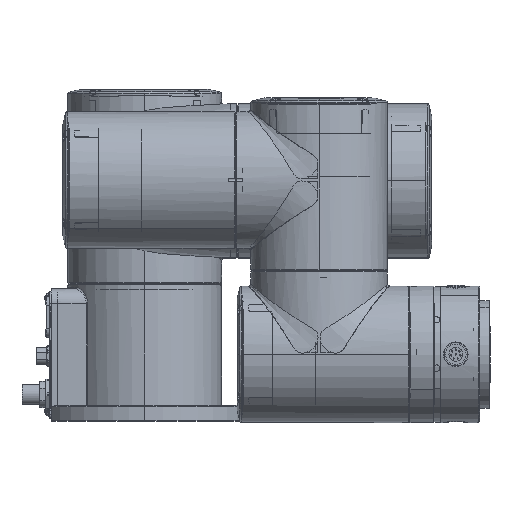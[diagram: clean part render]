
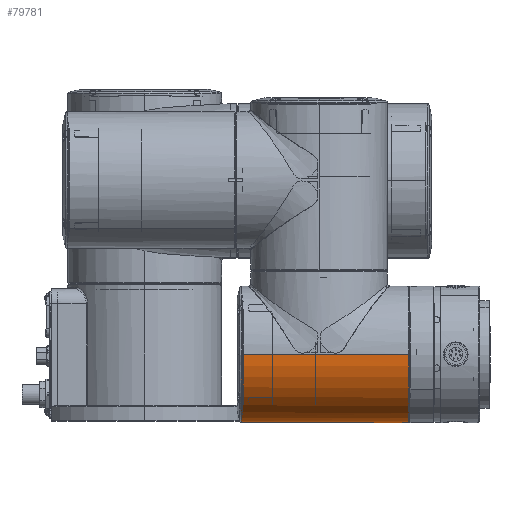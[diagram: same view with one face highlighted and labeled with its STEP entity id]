
A CAD part, top view. The second image highlights one B-rep face of the part: STEP entity #79781.
In plain terms, the highlighted cylindrical face has radius 40 mm (diameter 80 mm), a partial arc.
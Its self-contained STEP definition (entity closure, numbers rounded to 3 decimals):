
#944 = CARTESIAN_POINT ( 'NONE',  ( -40., 0., 0. ) ) ;
#2255 = DIRECTION ( 'NONE',  ( 0., 0., -1. ) ) ;
#5592 = CARTESIAN_POINT ( 'NONE',  ( 40., 0., 48. ) ) ;
#5737 = AXIS2_PLACEMENT_3D ( 'NONE', #11872, #38063, #109967 ) ;
#6031 = DIRECTION ( 'NONE',  ( 0., 0., -1. ) ) ;
#6538 = CARTESIAN_POINT ( 'NONE',  ( -1.005, 39.987, -49. ) ) ;
#7134 = CARTESIAN_POINT ( 'NONE',  ( -40., 0., 48. ) ) ;
#7421 = VERTEX_POINT ( 'NONE', #74821 ) ;
#9182 = EDGE_CURVE ( 'NONE', #7421, #13810, #111573, .T. ) ;
#11872 = CARTESIAN_POINT ( 'NONE',  ( 0., 0., 48. ) ) ;
#13559 = ORIENTED_EDGE ( 'NONE', *, *, #17013, .F. ) ;
#13810 = VERTEX_POINT ( 'NONE', #117627 ) ;
#14802 = LINE ( 'NONE', #117303, #138628 ) ;
#17013 = EDGE_CURVE ( 'NONE', #7421, #67553, #144394, .T. ) ;
#21884 = DIRECTION ( 'NONE',  ( 0., 0., 1. ) ) ;
#22810 = DIRECTION ( 'NONE',  ( -1., 0., 0. ) ) ;
#24855 = CIRCLE ( 'NONE', #80715, 40. ) ;
#25104 = VECTOR ( 'NONE', #136026, 1000. ) ;
#29659 = ORIENTED_EDGE ( 'NONE', *, *, #106592, .T. ) ;
#29801 = VERTEX_POINT ( 'NONE', #123202 ) ;
#30647 = CARTESIAN_POINT ( 'NONE',  ( 0., 0., 45.4 ) ) ;
#31057 = LINE ( 'NONE', #118983, #100597 ) ;
#34152 = ORIENTED_EDGE ( 'NONE', *, *, #51210, .T. ) ;
#34877 = EDGE_CURVE ( 'NONE', #150785, #138928, #121098, .T. ) ;
#34983 = ORIENTED_EDGE ( 'NONE', *, *, #146607, .T. ) ;
#38063 = DIRECTION ( 'NONE',  ( 0., 0., -1. ) ) ;
#42049 = ORIENTED_EDGE ( 'NONE', *, *, #34877, .T. ) ;
#45391 = DIRECTION ( 'NONE',  ( 0., 0., -1. ) ) ;
#50895 = CARTESIAN_POINT ( 'NONE',  ( -1.005, 39.987, -52.498 ) ) ;
#51210 = EDGE_CURVE ( 'NONE', #29801, #108028, #24855, .T. ) ;
#52179 = DIRECTION ( 'NONE',  ( 0., 0., -1. ) ) ;
#64314 = EDGE_CURVE ( 'NONE', #87921, #146949, #155373, .T. ) ;
#67051 = CARTESIAN_POINT ( 'NONE',  ( 0., 0., 45.4 ) ) ;
#67553 = VERTEX_POINT ( 'NONE', #944 ) ;
#70995 = ORIENTED_EDGE ( 'NONE', *, *, #119066, .F. ) ;
#72726 = CARTESIAN_POINT ( 'NONE',  ( 0., 0., -52.498 ) ) ;
#74821 = CARTESIAN_POINT ( 'NONE',  ( -40., 0., 45.4 ) ) ;
#75431 = ORIENTED_EDGE ( 'NONE', *, *, #64314, .T. ) ;
#76031 = CIRCLE ( 'NONE', #96517, 40. ) ;
#77427 = DIRECTION ( 'NONE',  ( -1., 0., 0. ) ) ;
#78774 = CARTESIAN_POINT ( 'NONE',  ( 0., 0., -52.498 ) ) ;
#79167 = CARTESIAN_POINT ( 'NONE',  ( 40., 0., 45.4 ) ) ;
#79781 = ADVANCED_FACE ( 'NONE', ( #147929 ), #149866, .T. ) ;
#80715 = AXIS2_PLACEMENT_3D ( 'NONE', #72726, #83259, #22810 ) ;
#83226 = VERTEX_POINT ( 'NONE', #87506 ) ;
#83259 = DIRECTION ( 'NONE',  ( 0., 0., 1. ) ) ;
#85268 = LINE ( 'NONE', #137062, #25104 ) ;
#87506 = CARTESIAN_POINT ( 'NONE',  ( -40., 0., -52.498 ) ) ;
#87921 = VERTEX_POINT ( 'NONE', #79167 ) ;
#89144 = EDGE_CURVE ( 'NONE', #108028, #150785, #31057, .T. ) ;
#91093 = CARTESIAN_POINT ( 'NONE',  ( 1.005, 39.987, -49. ) ) ;
#94338 = AXIS2_PLACEMENT_3D ( 'NONE', #78774, #126944, #137476 ) ;
#96517 = AXIS2_PLACEMENT_3D ( 'NONE', #30647, #6031, #77427 ) ;
#99420 = VERTEX_POINT ( 'NONE', #50895 ) ;
#100597 = VECTOR ( 'NONE', #21884, 1000. ) ;
#103621 = DIRECTION ( 'NONE',  ( 0., 0., 1. ) ) ;
#106014 = ORIENTED_EDGE ( 'NONE', *, *, #9182, .T. ) ;
#106592 = EDGE_CURVE ( 'NONE', #13810, #87921, #76031, .T. ) ;
#108028 = VERTEX_POINT ( 'NONE', #116476 ) ;
#109967 = DIRECTION ( 'NONE',  ( -1., 0., 0. ) ) ;
#111573 = CIRCLE ( 'NONE', #134225, 40. ) ;
#115091 = CARTESIAN_POINT ( 'NONE',  ( 40., 0., 0. ) ) ;
#115878 = LINE ( 'NONE', #7134, #155315 ) ;
#116476 = CARTESIAN_POINT ( 'NONE',  ( 1.005, 39.987, -52.498 ) ) ;
#117303 = CARTESIAN_POINT ( 'NONE',  ( 40., 0., 48. ) ) ;
#117627 = CARTESIAN_POINT ( 'NONE',  ( 28.284, 28.284, 45.4 ) ) ;
#118983 = CARTESIAN_POINT ( 'NONE',  ( 1.005, 39.987, 48. ) ) ;
#119066 = EDGE_CURVE ( 'NONE', #67553, #83226, #115878, .T. ) ;
#119711 = ORIENTED_EDGE ( 'NONE', *, *, #89144, .T. ) ;
#121098 = CIRCLE ( 'NONE', #143449, 40. ) ;
#123202 = CARTESIAN_POINT ( 'NONE',  ( 40., 0., -52.498 ) ) ;
#126944 = DIRECTION ( 'NONE',  ( 0., 0., 1. ) ) ;
#127233 = DIRECTION ( 'NONE',  ( 0., 0., -1. ) ) ;
#128229 = DIRECTION ( 'NONE',  ( 0., 0., -1. ) ) ;
#128951 = CIRCLE ( 'NONE', #94338, 40. ) ;
#134225 = AXIS2_PLACEMENT_3D ( 'NONE', #67051, #2255, #134389 ) ;
#134389 = DIRECTION ( 'NONE',  ( -1., 0., 0. ) ) ;
#134445 = EDGE_LOOP ( 'NONE', ( #106014, #29659, #75431, #34983, #34152, #119711, #42049, #155516, #134880, #70995, #13559 ) ) ;
#134880 = ORIENTED_EDGE ( 'NONE', *, *, #148207, .T. ) ;
#135017 = VECTOR ( 'NONE', #52179, 1000. ) ;
#136026 = DIRECTION ( 'NONE',  ( 0., 0., -1. ) ) ;
#136509 = VECTOR ( 'NONE', #128229, 1000. ) ;
#137062 = CARTESIAN_POINT ( 'NONE',  ( -1.005, 39.987, 48. ) ) ;
#137476 = DIRECTION ( 'NONE',  ( -1., 0., 0. ) ) ;
#138628 = VECTOR ( 'NONE', #45391, 1000. ) ;
#138691 = DIRECTION ( 'NONE',  ( -1., 0., 0. ) ) ;
#138928 = VERTEX_POINT ( 'NONE', #6538 ) ;
#142639 = CARTESIAN_POINT ( 'NONE',  ( 0., 0., -49. ) ) ;
#143037 = EDGE_CURVE ( 'NONE', #138928, #99420, #85268, .T. ) ;
#143449 = AXIS2_PLACEMENT_3D ( 'NONE', #142639, #103621, #138691 ) ;
#144394 = LINE ( 'NONE', #149227, #135017 ) ;
#146607 = EDGE_CURVE ( 'NONE', #146949, #29801, #14802, .T. ) ;
#146949 = VERTEX_POINT ( 'NONE', #115091 ) ;
#147929 = FACE_OUTER_BOUND ( 'NONE', #134445, .T. ) ;
#148207 = EDGE_CURVE ( 'NONE', #99420, #83226, #128951, .T. ) ;
#149227 = CARTESIAN_POINT ( 'NONE',  ( -40., 0., 48. ) ) ;
#149866 = CYLINDRICAL_SURFACE ( 'NONE', #5737, 40. ) ;
#150785 = VERTEX_POINT ( 'NONE', #91093 ) ;
#155315 = VECTOR ( 'NONE', #127233, 1000. ) ;
#155373 = LINE ( 'NONE', #5592, #136509 ) ;
#155516 = ORIENTED_EDGE ( 'NONE', *, *, #143037, .T. ) ;
